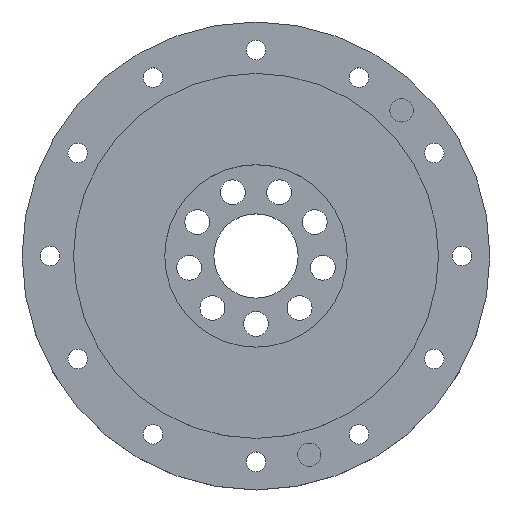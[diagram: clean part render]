
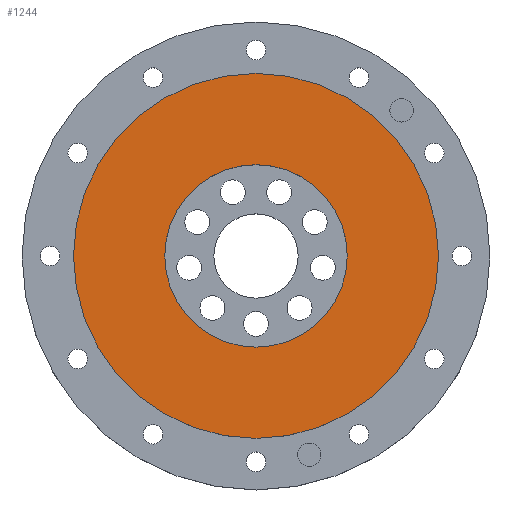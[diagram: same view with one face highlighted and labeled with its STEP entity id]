
A CAD part, top view. The second image highlights one B-rep face of the part: STEP entity #1244.
In plain terms, the highlighted planar face has unit normal (0, 0, 1).
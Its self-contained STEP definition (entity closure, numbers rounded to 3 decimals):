
#2 = VERTEX_POINT ( 'NONE', #2475 ) ;
#119 = FACE_OUTER_BOUND ( 'NONE', #2318, .T. ) ;
#172 = ORIENTED_EDGE ( 'NONE', *, *, #1820, .T. ) ;
#205 = DIRECTION ( 'NONE',  ( 1., 0., 0. ) ) ;
#239 = AXIS2_PLACEMENT_3D ( 'NONE', #1706, #248, #675 ) ;
#248 = DIRECTION ( 'NONE',  ( 0., 0., 1. ) ) ;
#260 = CIRCLE ( 'NONE', #2191, 39. ) ;
#265 = CARTESIAN_POINT ( 'NONE',  ( 0., 0., 18. ) ) ;
#290 = DIRECTION ( 'NONE',  ( 0., 0., 1. ) ) ;
#523 = AXIS2_PLACEMENT_3D ( 'NONE', #935, #1633, #2198 ) ;
#590 = CARTESIAN_POINT ( 'NONE',  ( 19.5, 0., 18. ) ) ;
#607 = VERTEX_POINT ( 'NONE', #669 ) ;
#669 = CARTESIAN_POINT ( 'NONE',  ( -39., 0., 18. ) ) ;
#675 = DIRECTION ( 'NONE',  ( 1., 0., 0. ) ) ;
#789 = DIRECTION ( 'NONE',  ( 0., 0., 1. ) ) ;
#879 = VERTEX_POINT ( 'NONE', #1186 ) ;
#882 = ORIENTED_EDGE ( 'NONE', *, *, #1095, .T. ) ;
#935 = CARTESIAN_POINT ( 'NONE',  ( 0., 0., 18. ) ) ;
#1095 = EDGE_CURVE ( 'NONE', #607, #879, #1481, .T. ) ;
#1186 = CARTESIAN_POINT ( 'NONE',  ( 39., 0., 18. ) ) ;
#1244 = ADVANCED_FACE ( 'NONE', ( #2638, #119 ), #1829, .T. ) ;
#1254 = ORIENTED_EDGE ( 'NONE', *, *, #2716, .F. ) ;
#1284 = CIRCLE ( 'NONE', #239, 19.5 ) ;
#1318 = CARTESIAN_POINT ( 'NONE',  ( 0., 0., 18. ) ) ;
#1481 = CIRCLE ( 'NONE', #2405, 39. ) ;
#1600 = EDGE_CURVE ( 'NONE', #2, #2274, #2447, .T. ) ;
#1607 = DIRECTION ( 'NONE',  ( 1., 0., 0. ) ) ;
#1633 = DIRECTION ( 'NONE',  ( 0., 0., 1. ) ) ;
#1706 = CARTESIAN_POINT ( 'NONE',  ( 0., 0., 18. ) ) ;
#1717 = EDGE_LOOP ( 'NONE', ( #1254, #2007 ) ) ;
#1820 = EDGE_CURVE ( 'NONE', #879, #607, #260, .T. ) ;
#1829 = PLANE ( 'NONE',  #523 ) ;
#1877 = AXIS2_PLACEMENT_3D ( 'NONE', #265, #290, #2222 ) ;
#2007 = ORIENTED_EDGE ( 'NONE', *, *, #1600, .F. ) ;
#2156 = DIRECTION ( 'NONE',  ( 0., 0., 1. ) ) ;
#2191 = AXIS2_PLACEMENT_3D ( 'NONE', #2558, #789, #1607 ) ;
#2198 = DIRECTION ( 'NONE',  ( 1., 0., 0. ) ) ;
#2222 = DIRECTION ( 'NONE',  ( 1., 0., 0. ) ) ;
#2274 = VERTEX_POINT ( 'NONE', #590 ) ;
#2318 = EDGE_LOOP ( 'NONE', ( #172, #882 ) ) ;
#2405 = AXIS2_PLACEMENT_3D ( 'NONE', #1318, #2156, #205 ) ;
#2447 = CIRCLE ( 'NONE', #1877, 19.5 ) ;
#2475 = CARTESIAN_POINT ( 'NONE',  ( -19.5, 0., 18. ) ) ;
#2558 = CARTESIAN_POINT ( 'NONE',  ( 0., 0., 18. ) ) ;
#2638 = FACE_BOUND ( 'NONE', #1717, .T. ) ;
#2716 = EDGE_CURVE ( 'NONE', #2274, #2, #1284, .T. ) ;
